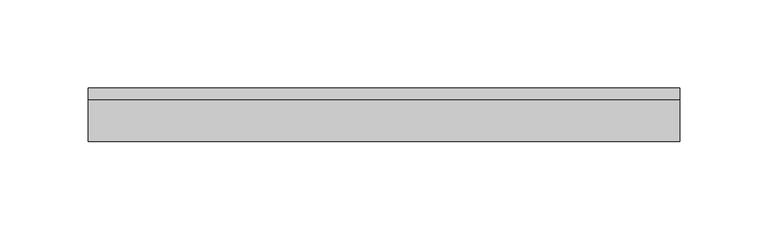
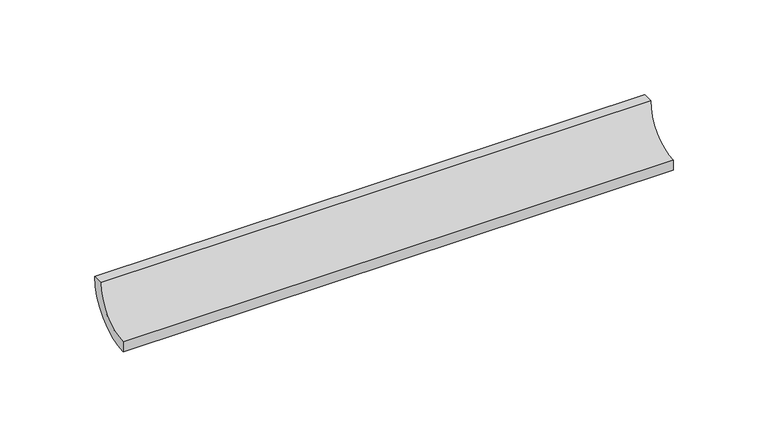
"""IFC4 building model written with IfcOpenShell, lengths in millimetres: proxy geometry, EXAGRES - Half Round Coving : Nubia_33x4cm."""

from ifc_helpers import new_model, si_unit, point, frame, frame_2d, origin, place, context, project, spatial, polyline, circle_curve, trimmed, segment, composite_curve, outline, extrude, source, transform, mapped, element, save


def generic_models_2e22c04a(model_context):
    return source(origin(), model_context, "Body", "SweptSolid", [
        extrude(outline(composite_curve([segment(polyline([(0.0, 23.9), (6.4, 23.9)]), True, "CONTINUOUS"), segment(trimmed(circle_curve(frame_2d((-23.9, 23.9)), 30.3), [point((6.4, 23.9))], [point((-23.9, -6.4))], False, "CARTESIAN"), True, "CONTINUOUS"), segment(polyline([(-23.9, -6.4), (-23.9, 0.0)]), True, "CONTINUOUS"), segment(trimmed(circle_curve(frame_2d((-23.9, 23.9)), 23.9), [point((-23.9, 0.0))], [point((0.0, 23.9))], True, "CARTESIAN"), True, "CONTINUOUS")], self_intersect=False)), frame((0.0, 0.0, 0.0), z_axis=(1.0, 0.0, 0.0), x_axis=(0.0, 1.0, 0.0)), (0.0, 0.0, 1.0), 335.0),
    ])


if __name__ == "__main__":
    model = new_model("IFC4")
    model_context = context("Model", 3, world=origin())
    ifc_project = project(units=[si_unit("LENGTHUNIT", "METRE", prefix="MILLI")], contexts=[model_context])
    site = spatial("IfcSite", under=ifc_project)
    building = spatial("IfcBuilding", under=site)
    placement = place(None, origin())
    generic_models_shape = generic_models_2e22c04a(model_context)
    element("IfcBuildingElementProxy", 1, Name="EXAGRES - Half Round Coving : Nubia_33x4cm", ObjectType="EXAGRES - Half Round Coving : Nubia_33x4cm", at=placement, inside=building, context=model_context, shape_type="MappedRepresentation", body=[
        mapped(generic_models_shape, transform((0.0, 0.0, 0.0), x_axis=(1.0, 0.0, 0.0), y_axis=(0.0, 1.0, 0.0), z_axis=(0.0, 0.0, 1.0))),
    ])
    save(model, "model.ifc")
